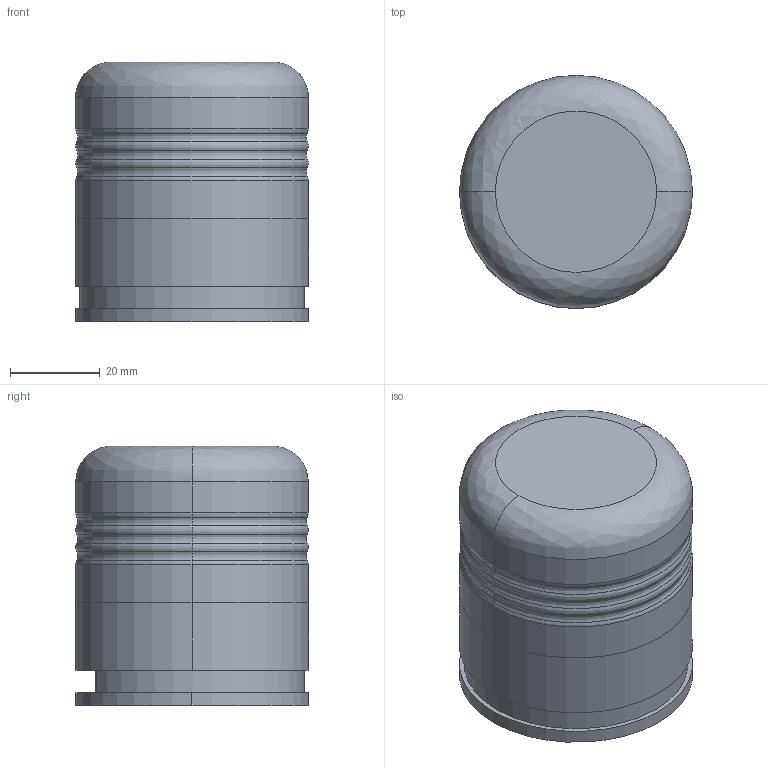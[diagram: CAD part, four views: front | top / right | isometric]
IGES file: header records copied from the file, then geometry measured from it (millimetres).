
Start section: IGES file generated by C3D Converter 1.6 translator by C3D Labs., translator version IGESOUT-5.1.
Global section: file name: HC:\Users\沓膼\OneDrive\Desktop\欙鵳醆SL52B-220RYG\SL52B-220-RYG.igs; preprocessor: 1.0; author: 沓膼,7; organization: Hunknown; date: -17760703:145826; units: millimetre
Bounding box: 52 x 52 x 58 mm (x, y, z)
Volume: 54920.3 mm3; surface area: 24556.1 mm2
Topology: 2 solids, 2 shells, 73 faces, 150 edges, 88 vertices
Faces by surface type: revolution 59, bspline 14
